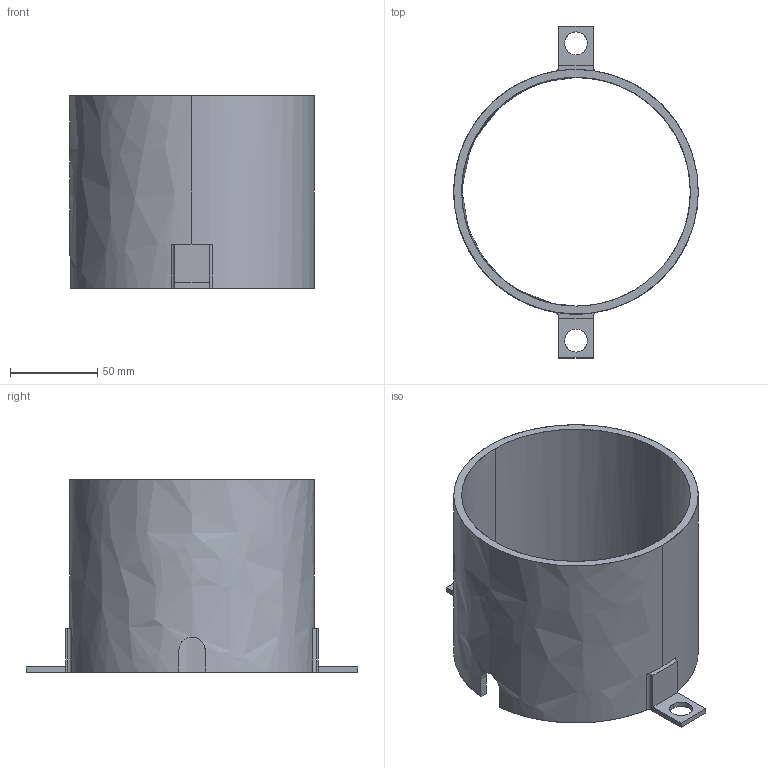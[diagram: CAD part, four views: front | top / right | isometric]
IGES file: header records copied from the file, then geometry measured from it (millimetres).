
Global section: file name: E:\UnigraphicsGraphicData\MISUMI_PRESS-PARTS\IGES\3d_ph90-110-r_07060_r00.igs; native system: NX V5.0; preprocessor: UGS NX IGES V5.0; author: MISUMI; date: 20110105.162245; units: millimetre
Bounding box: 139.8 x 189.8 x 110 mm (x, y, z)
Surface area: 101767.4 mm2 (no closed solid volume)
Topology: 0 solids, 0 shells, 41 faces, 290 edges, 290 vertices
Faces by surface type: bspline 41
